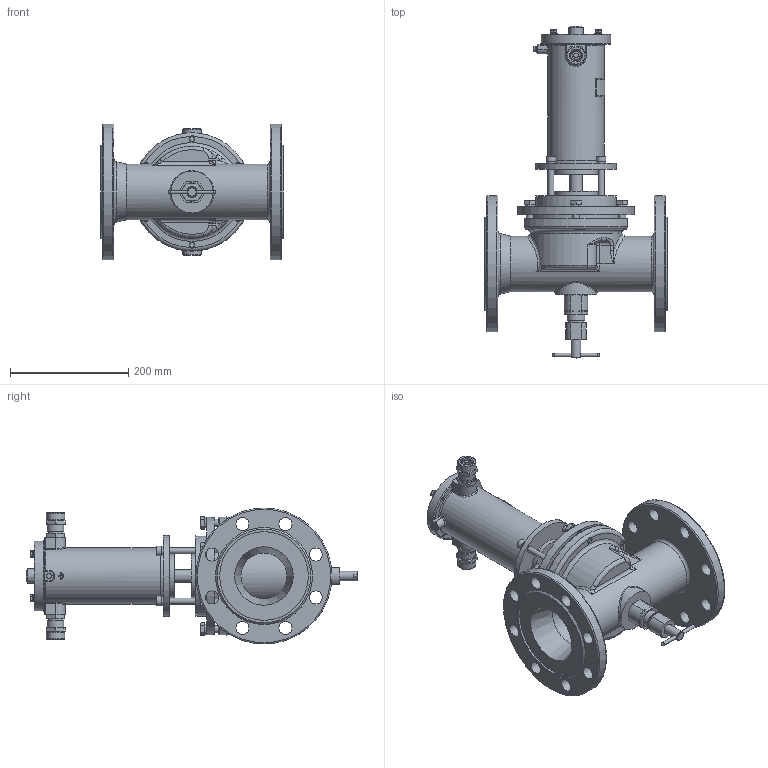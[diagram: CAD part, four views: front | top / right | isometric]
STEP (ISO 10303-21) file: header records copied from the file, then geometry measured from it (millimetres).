
FILE_DESCRIPTION(('STEP AP203'), '1');
FILE_NAME('ÑÅÍÑ-ÏÐ DN100PN25-200Ñ-ÑÂ.stp', '2018-10-09T07:58:33', ('Îðëîâ Å.Â.'), ('ÎÎÎ ÍÏÏ Ñåíñîð'), 'ASCON STEP Converter 1.3', 'Kompas 3D', '');
FILE_SCHEMA(('CONFIG_CONTROL_DESIGN','SUPPORT_RESOURCE_SCHEMA'));
Length unit declared in the file: millimetre
Products named in the file (1): 23
Bounding box: 308 x 561.5 x 230 mm (x, y, z)
Volume: 3885827 mm3; surface area: 845097.5 mm2
Topology: 3 solids, 24 shells, 2152 faces, 5671 edges, 3661 vertices
Faces by surface type: cylinder 1049, plane 816, cone 158, bspline 56, torus 49, extrusion 16, sphere 8
Full cylindrical faces by diameter (mm): 3.5 x2, 4.134 x1, 4.917 x4, 5 x1, 6 x9, 6.5 x4, 8 x8, 8.2 x1, 8.376 x4, 9 x1, 10 x5, 10.106 x6, 11 x5, 12 x10, 13 x8, 16 x6, 17 x2, 18 x1, 18.632 x2, 20 x3, 22 x19, 22.376 x2, 23 x1, 23.5 x2, 24 x3, 24.5 x2, 26 x4, 26.376 x2, 27.8 x1, 28 x3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
Entity records: 84960 total; most frequent: CARTESIAN_POINT 30749, DIRECTION 11683, ORIENTED_EDGE 11280, EDGE_CURVE 5640, AXIS2_PLACEMENT_3D 4509, VERTEX_POINT 3661, VECTOR 2665, LINE 2649
